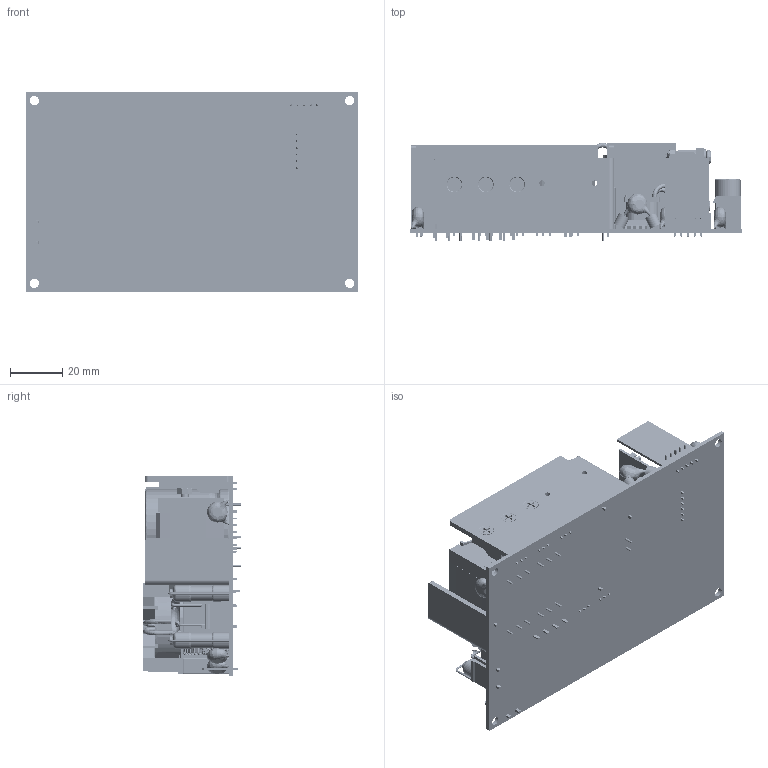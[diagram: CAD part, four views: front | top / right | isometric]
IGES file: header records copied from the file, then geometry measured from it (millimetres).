
Start section: SolidWorks IGES file using analytic representation for surfaces
Global section: file name: C:\Users\cdavies\Desktop\ECH450PS12-24.IGS; native system: SolidWorks 2020; preprocessor: SolidWorks 2020; author: cdavies; date: 230831.161756; units: metre
Bounding box: 127 x 37.6 x 76.2 mm (x, y, z)
Surface area: 100009.3 mm2 (no closed solid volume)
Topology: 0 solids, 0 shells, 3655 faces, 28728 edges, 28682 vertices
Faces by surface type: bspline 3049, revolution 606
